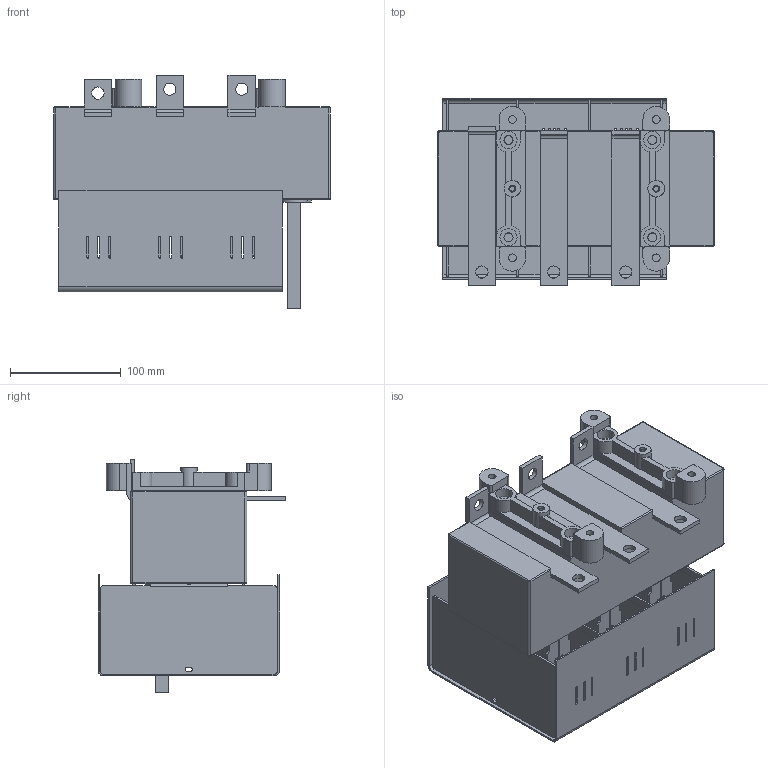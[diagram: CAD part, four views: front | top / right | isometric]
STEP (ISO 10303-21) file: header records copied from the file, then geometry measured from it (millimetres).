
FILE_DESCRIPTION(/* description */ (''),/* implementation_level */ '2;1');
FILE_NAME(/* name */ 'RAB 1 P3 B-R.stp',/* time_stamp */ '2021-08-19T12:48:23+02:00',/* author */ (''),/* organization */ (''),/* preprocessor_version */ 'ST-DEVELOPER v18.1',/* originating_system */ 'SIEMENS PLM Software NX 1965',/* authorisation */ '');
FILE_SCHEMA (('AUTOMOTIVE_DESIGN { 1 0 10303 214 3 1 1 1 }'));
Length unit declared in the file: millimetre
Products named in the file (1): RAB 1 P3 B-R_stp
Bounding box: 250 x 169.79 x 210.69 mm (x, y, z)
Volume: 2454021.7 mm3; surface area: 428992 mm2
Topology: 1 solids, 1 shells, 996 faces, 2762 edges, 1800 vertices
Faces by surface type: plane 652, cylinder 336, torus 5, bspline 3
Full cylindrical faces by diameter (mm): 4.8 x2, 6.2 x2, 7 x4, 8.2 x4, 11 x6, 14 x4, 15 x2, 15.5 x4
Entity records: 31871 total; most frequent: CARTESIAN_POINT 5610, ORIENTED_EDGE 5460, DIRECTION 5418, EDGE_CURVE 2730, LINE 2018, VECTOR 2018, VERTEX_POINT 1796, AXIS2_PLACEMENT_3D 1700
